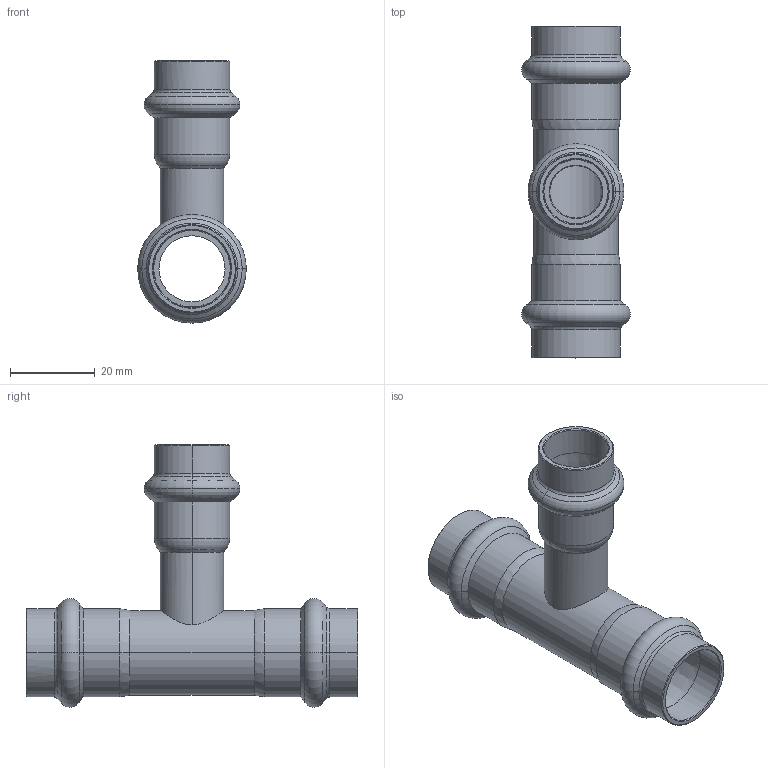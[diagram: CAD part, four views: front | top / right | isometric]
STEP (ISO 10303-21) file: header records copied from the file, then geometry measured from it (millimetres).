
FILE_DESCRIPTION(('CoCreate Modeling STEP Export'),'2;1');
FILE_NAME('8130RVW181518.stp','2013-01-31T14:36:03',(''),(''),'CoCreate Modeling STEP processor for AP214 (Solid Model)','CoCreate Modeling 17.00A 17-Jun-2010 (C) Parametric Technology GmbH','');
FILE_SCHEMA(('AUTOMOTIVE_DESIGN { 1 0 10303 214 1 1 1 1 }'));
Length unit declared in the file: millimetre
Products named in the file (1): 8130RVW181518
Bounding box: 25.7 x 78.51 x 62.04 mm (x, y, z)
Volume: 10825.5 mm3; surface area: 14343.4 mm2
Topology: 1 solids, 1 shells, 126 faces, 265 edges, 149 vertices
Faces by surface type: cylinder 40, torus 38, cone 36, plane 10, bspline 2
Entity records: 5172 total; most frequent: CARTESIAN_POINT 2879, ORIENTED_EDGE 530, DIRECTION 420, EDGE_CURVE 265, AXIS2_PLACEMENT_3D 172, VERTEX_POINT 149, EDGE_LOOP 138, FACE_OUTER_BOUND 126
